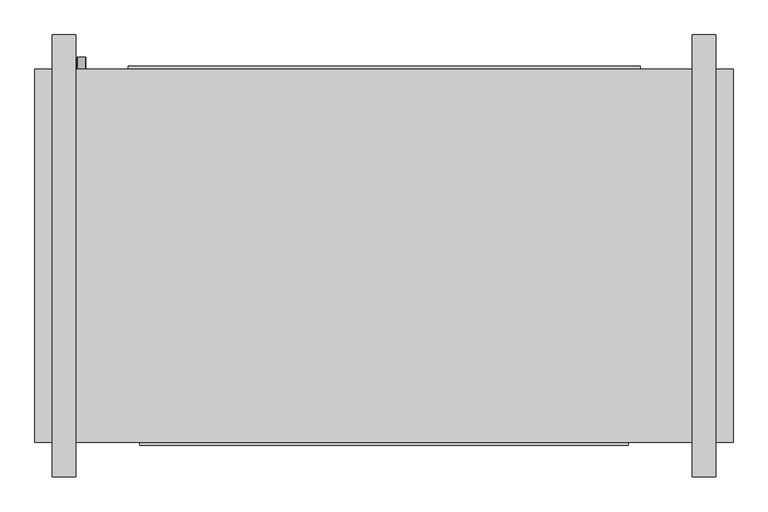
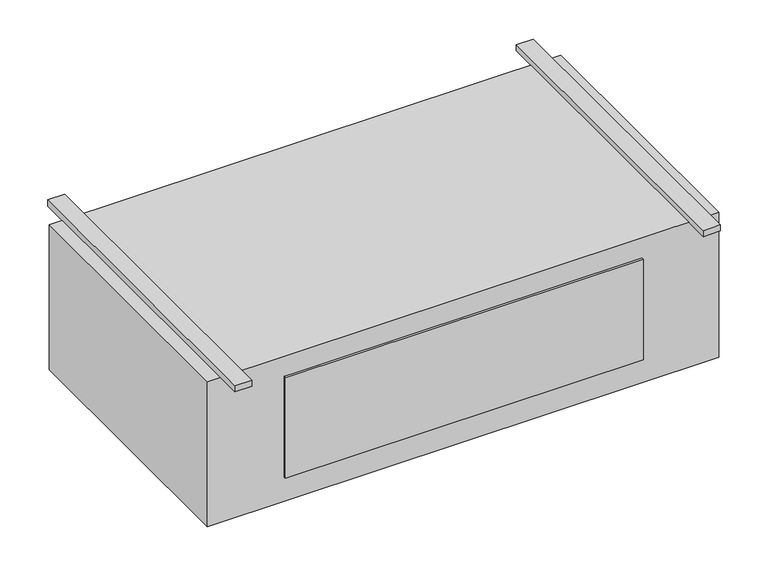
"""IFC4 building model written with IfcOpenShell, lengths in millimetres: proxy geometry, Exposed_High_Capacity_Horizontal_Cabinet_Fan_Coil_Unit_-_42DFA_-_CARRIER_-_2-Pipe_Cool-EHeat_LH_2022 : Size 18 - 277v/60Hz/1Ph - 6 Row 12.0kW."""

from ifc_helpers import new_model, si_unit, point, frame, frame_2d, origin, origin_with_axes, place, context, project, spatial, polyline, circle_curve, trimmed, segment, composite_curve, outline, extrude, source, transform, mapped, element, save


def mechanical_equipment_f75bf29c(model_context):
    return source(origin(), model_context, "Body", "SweptSolid", [
        extrude(outline(composite_curve([segment(trimmed(circle_curve(frame_2d((-406.4, -508.0)), 9.525), [point((-406.4, -517.525))], [point((-406.4, -498.475))], False, "CARTESIAN"), True, "CONTINUOUS"), segment(trimmed(circle_curve(frame_2d((-406.4, -508.0)), 9.525), [point((-406.4, -498.475))], [point((-406.4, -517.525))], False, "CARTESIAN"), True, "CONTINUOUS")], self_intersect=False)), frame((0.0, 169.8625, 0.0), z_axis=(0.0, 1.0, 0.0), x_axis=(0.0, 0.0, 1.0)), (0.0, 0.0, 1.0), 25.4),
        extrude(outline(composite_curve([segment(trimmed(circle_curve(frame_2d((-330.2, -508.0)), 7.9375), [point((-330.2, -515.9375))], [point((-330.2, -500.0625))], False, "CARTESIAN"), True, "CONTINUOUS"), segment(trimmed(circle_curve(frame_2d((-330.2, -508.0)), 7.9375), [point((-330.2, -500.0625))], [point((-330.2, -515.9375))], False, "CARTESIAN"), True, "CONTINUOUS")], self_intersect=False)), frame((0.0, 169.8625, 0.0), z_axis=(0.0, 1.0, 0.0), x_axis=(0.0, 0.0, 1.0)), (0.0, 0.0, 1.0), 25.4),
        extrude(outline(composite_curve([segment(trimmed(circle_curve(frame_2d((-254.0, -508.0)), 7.9375), [point((-254.0, -515.9375))], [point((-254.0, -500.0625))], False, "CARTESIAN"), True, "CONTINUOUS"), segment(trimmed(circle_curve(frame_2d((-254.0, -508.0)), 7.9375), [point((-254.0, -500.0625))], [point((-254.0, -515.9375))], False, "CARTESIAN"), True, "CONTINUOUS")], self_intersect=False)), frame((0.0, 169.8625, 0.0), z_axis=(0.0, 1.0, 0.0), x_axis=(0.0, 0.0, 1.0)), (0.0, 0.0, 1.0), 25.4),
        extrude(outline(polyline([(914.4, 169.8625), (914.4, -646.1125), (-609.6, -646.1125), (-609.6, 169.8625), (914.4, 169.8625)])), frame((0.0, 0.0, -457.2), z_axis=(0.0, 0.0, 1.0), x_axis=(1.0, 0.0, 0.0)), (0.0, 0.0, 1.0), 457.2),
        extrude(outline(polyline([(-406.4, 176.2125), (711.2, 176.2125), (711.2, 169.8625), (-406.4, 169.8625), (-406.4, 176.2125)])), frame((0.0, 0.0, -381.0), z_axis=(0.0, 0.0, 1.0), x_axis=(1.0, 0.0, 0.0)), (0.0, 0.0, 1.0), 355.6),
        extrude(outline(polyline([(-520.7, 244.475), (-520.7, -720.725), (-571.5, -720.725), (-571.5, 244.475), (-520.7, 244.475)])), origin_with_axes(), (0.0, 0.0, 1.0), 19.05),
        extrude(outline(polyline([(876.3, 244.475), (876.3, -720.725), (825.5, -720.725), (825.5, 244.475), (876.3, 244.475)])), origin_with_axes(), (0.0, 0.0, 1.0), 19.05),
        extrude(outline(polyline([(685.8, -652.4625), (-381.0, -652.4625), (-381.0, -646.1125), (685.8, -646.1125), (685.8, -652.4625)])), frame((0.0, 0.0, -381.0), z_axis=(0.0, 0.0, 1.0), x_axis=(1.0, 0.0, 0.0)), (0.0, 0.0, 1.0), 317.5),
    ])


if __name__ == "__main__":
    model = new_model("IFC4")
    model_context = context("Model", 3, world=origin())
    ifc_project = project(units=[si_unit("LENGTHUNIT", "METRE", prefix="MILLI")], contexts=[model_context])
    site = spatial("IfcSite", under=ifc_project)
    building = spatial("IfcBuilding", under=site)
    placement = place(None, origin())
    mechanical_equipment_shape = mechanical_equipment_f75bf29c(model_context)
    element("IfcBuildingElementProxy", 1, Name="Exposed_High_Capacity_Horizontal_Cabinet_Fan_Coil_Unit_-_42DFA_-_CARRIER_-_2-Pipe_Cool-EHeat_LH_2022 : Size 18 - 277v/60Hz/1Ph - 6 Row 12.0kW", ObjectType="Exposed_High_Capacity_Horizontal_Cabinet_Fan_Coil_Unit_-_42DFA_-_CARRIER_-_2-Pipe_Cool-EHeat_LH_2022 : Size 18 - 277v/60Hz/1Ph - 6 Row 12.0kW", at=placement, inside=building, context=model_context, shape_type="MappedRepresentation", body=[
        mapped(mechanical_equipment_shape, transform((0.0, 0.0, 0.0), x_axis=(1.0, 0.0, 0.0), y_axis=(0.0, 1.0, 0.0), z_axis=(0.0, 0.0, 1.0))),
    ])
    save(model, "model.ifc")
